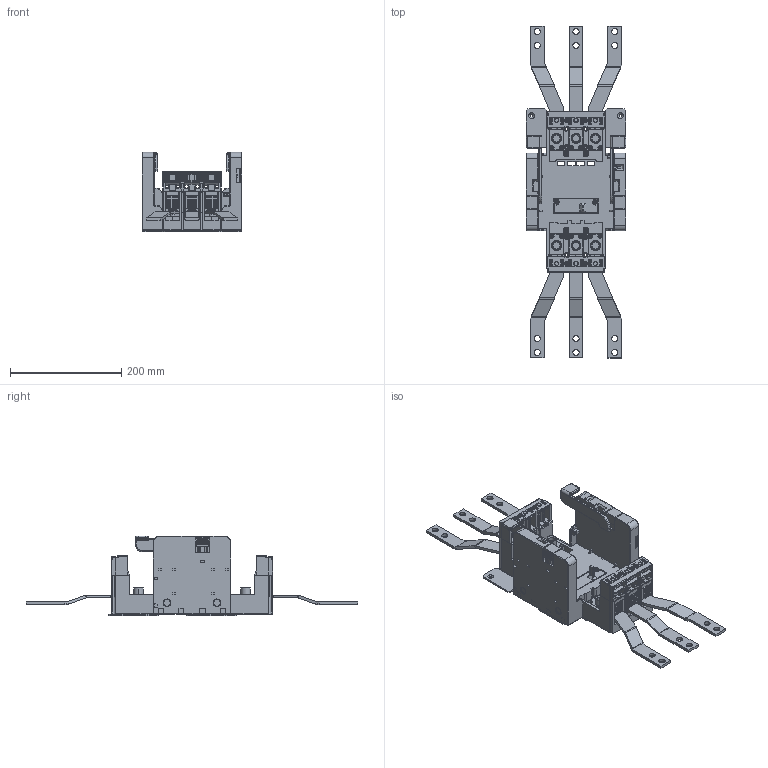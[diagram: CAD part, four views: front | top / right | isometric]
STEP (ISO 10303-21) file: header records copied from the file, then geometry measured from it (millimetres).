
FILE_DESCRIPTION (( 'STEP AP214' ), '1' );
FILE_NAME ('ZV-BD-0250-300__CS-BD-JT75__OD-BD-MT75_zj_02.step', '2013-08-22T11:37:34', ( '' ), ( '' ), 'SwSTEP 2.0', 'SolidWorks 2011', '' );
FILE_SCHEMA (( 'AUTOMOTIVE_DESIGN' ));
Length unit declared in the file: millimetre
Products named in the file (1): ZV-BD-0250-300__CS-BD-JT75__OD-BD-MT75_zj_02
Bounding box: 180 x 598 x 143 mm (x, y, z)
Volume: 2207102.2 mm3; surface area: 583572.7 mm2
Topology: 11 solids, 12 shells, 5815 faces, 15475 edges, 9692 vertices
Faces by surface type: plane 3313, cylinder 1880, bspline 380, cone 120, torus 98, sphere 24
Entity records: 249087 total; most frequent: CARTESIAN_POINT 43506, ORIENTED_EDGE 30482, DIRECTION 28314, EDGE_CURVE 15241, VECTOR 10386, LINE 10386, VERTEX_POINT 9692, AXIS2_PLACEMENT_3D 8964
